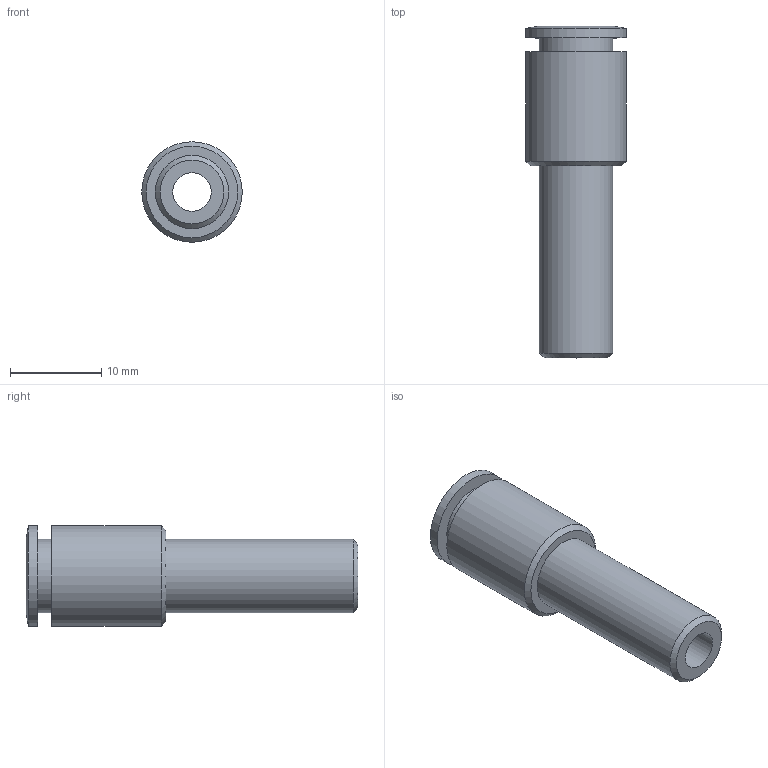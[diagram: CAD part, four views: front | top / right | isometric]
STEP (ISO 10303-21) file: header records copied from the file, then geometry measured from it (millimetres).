
FILE_DESCRIPTION((''),'2;1');
FILE_NAME('C:\Documents and Settings\rivolro1\Documenti\copia di Raccordi\PLASTICA\T08XXXX\T080806.stp','2007-10-30T17:05:00',('Rivolro1'),(''),'Autodesk Inventor 2008','Autodesk Inventor 2008','');
FILE_SCHEMA(('AUTOMOTIVE_DESIGN { 1 0 10303 214 1 1 1 1 }'));
Length unit declared in the file: millimetre
Products named in the file (1): T080806
Bounding box: 11 x 36.3 x 11 mm (x, y, z)
Volume: 1643.4 mm3; surface area: 1855.3 mm2
Topology: 1 solids, 1 shells, 15 faces, 24 edges, 15 vertices
Faces by surface type: plane 5, cylinder 5, cone 3, bspline 2
Full cylindrical faces by diameter (mm): 4.2 x1, 8 x2, 11 x2
Entity records: 363 total; most frequent: CARTESIAN_POINT 66, DIRECTION 58, ORIENTED_EDGE 30, EDGE_LOOP 30, AXIS2_PLACEMENT_3D 29, VERTEX_POINT 15, CIRCLE 15, EDGE_CURVE 15
